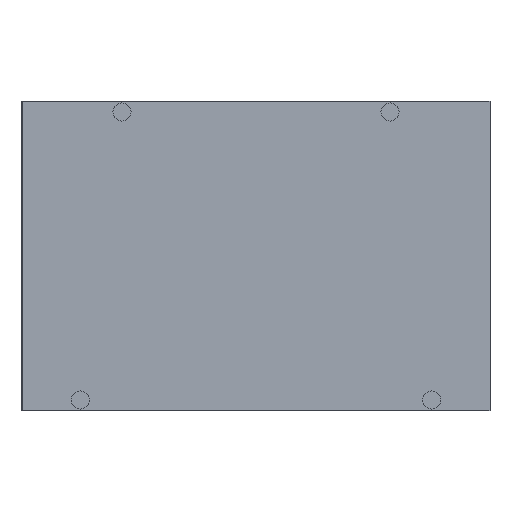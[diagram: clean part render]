
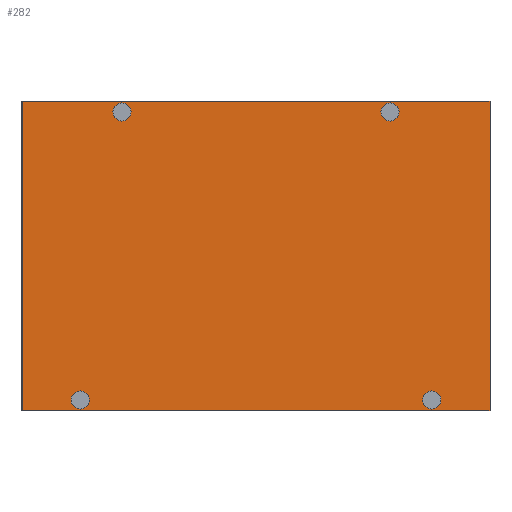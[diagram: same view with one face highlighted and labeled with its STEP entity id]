
A CAD part, front view. The second image highlights one B-rep face of the part: STEP entity #282.
In plain terms, the highlighted planar face has unit normal (0, -1, 0).
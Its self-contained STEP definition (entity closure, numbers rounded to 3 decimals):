
#20 = CIRCLE ( 'NONE', #932, 0.5 ) ;
#35 = CIRCLE ( 'NONE', #412, 0.5 ) ;
#40 = CARTESIAN_POINT ( 'NONE',  ( -9.675, -14.875, 0.6 ) ) ;
#44 = EDGE_CURVE ( 'NONE', #531, #658, #718, .T. ) ;
#56 = DIRECTION ( 'NONE',  ( -1., 0., 0. ) ) ;
#64 = DIRECTION ( 'NONE',  ( 0., 0., -1. ) ) ;
#110 = EDGE_CURVE ( 'NONE', #1180, #750, #361, .T. ) ;
#120 = ORIENTED_EDGE ( 'NONE', *, *, #575, .F. ) ;
#129 = ORIENTED_EDGE ( 'NONE', *, *, #203, .F. ) ;
#130 = VECTOR ( 'NONE', #1105, 1000. ) ;
#133 = DIRECTION ( 'NONE',  ( 0., -1., 0. ) ) ;
#136 = EDGE_CURVE ( 'NONE', #868, #887, #1132, .T. ) ;
#137 = DIRECTION ( 'NONE',  ( -1., 0., 0. ) ) ;
#141 = CARTESIAN_POINT ( 'NONE',  ( 10.175, -14.875, 0.6 ) ) ;
#149 = FACE_BOUND ( 'NONE', #899, .T. ) ;
#162 = CARTESIAN_POINT ( 'NONE',  ( -9.675, -14.875, 0.6 ) ) ;
#165 = CARTESIAN_POINT ( 'NONE',  ( -12.875, -14.875, 17.05 ) ) ;
#174 = EDGE_CURVE ( 'NONE', #750, #1180, #217, .T. ) ;
#176 = CARTESIAN_POINT ( 'NONE',  ( -12.875, -14.875, 0. ) ) ;
#177 = AXIS2_PLACEMENT_3D ( 'NONE', #986, #241, #598 ) ;
#190 = ORIENTED_EDGE ( 'NONE', *, *, #332, .F. ) ;
#202 = EDGE_CURVE ( 'NONE', #373, #662, #35, .T. ) ;
#203 = EDGE_CURVE ( 'NONE', #930, #211, #1146, .T. ) ;
#211 = VERTEX_POINT ( 'NONE', #141 ) ;
#217 = CIRCLE ( 'NONE', #177, 0.5 ) ;
#221 = ORIENTED_EDGE ( 'NONE', *, *, #174, .F. ) ;
#225 = AXIS2_PLACEMENT_3D ( 'NONE', #1169, #615, #56 ) ;
#230 = DIRECTION ( 'NONE',  ( 0., -1., 0. ) ) ;
#232 = CARTESIAN_POINT ( 'NONE',  ( -7.375, -14.875, 16.45 ) ) ;
#241 = DIRECTION ( 'NONE',  ( 0., -1., 0. ) ) ;
#244 = DIRECTION ( 'NONE',  ( -1., 0., 0. ) ) ;
#268 = AXIS2_PLACEMENT_3D ( 'NONE', #232, #133, #1164 ) ;
#276 = CARTESIAN_POINT ( 'NONE',  ( 7.375, -14.875, 16.45 ) ) ;
#282 = ADVANCED_FACE ( 'NONE', ( #1185, #580, #149, #883, #1063 ), #1175, .F. ) ;
#283 = ORIENTED_EDGE ( 'NONE', *, *, #110, .F. ) ;
#299 = DIRECTION ( 'NONE',  ( 0., 0., -1. ) ) ;
#319 = VECTOR ( 'NONE', #493, 1000. ) ;
#332 = EDGE_CURVE ( 'NONE', #510, #658, #956, .T. ) ;
#358 = CARTESIAN_POINT ( 'NONE',  ( 9.675, -14.875, 0.6 ) ) ;
#361 = CIRCLE ( 'NONE', #268, 0.5 ) ;
#367 = CARTESIAN_POINT ( 'NONE',  ( -12.875, -14.875, 17.05 ) ) ;
#373 = VERTEX_POINT ( 'NONE', #514 ) ;
#379 = CARTESIAN_POINT ( 'NONE',  ( 6.875, -14.875, 16.45 ) ) ;
#380 = DIRECTION ( 'NONE',  ( 0., -1., 0. ) ) ;
#386 = LINE ( 'NONE', #165, #130 ) ;
#387 = EDGE_LOOP ( 'NONE', ( #129, #640 ) ) ;
#406 = CARTESIAN_POINT ( 'NONE',  ( -12.875, -14.875, 0. ) ) ;
#412 = AXIS2_PLACEMENT_3D ( 'NONE', #40, #803, #244 ) ;
#417 = DIRECTION ( 'NONE',  ( 0., -1., 0. ) ) ;
#443 = CARTESIAN_POINT ( 'NONE',  ( 7.875, -14.875, 16.45 ) ) ;
#452 = AXIS2_PLACEMENT_3D ( 'NONE', #904, #230, #137 ) ;
#454 = DIRECTION ( 'NONE',  ( 0., -1., 0. ) ) ;
#488 = EDGE_CURVE ( 'NONE', #856, #510, #386, .T. ) ;
#493 = DIRECTION ( 'NONE',  ( 1., 0., 0. ) ) ;
#495 = CIRCLE ( 'NONE', #1130, 0.5 ) ;
#510 = VERTEX_POINT ( 'NONE', #846 ) ;
#514 = CARTESIAN_POINT ( 'NONE',  ( -10.175, -14.875, 0.6 ) ) ;
#515 = ORIENTED_EDGE ( 'NONE', *, *, #202, .F. ) ;
#531 = VERTEX_POINT ( 'NONE', #176 ) ;
#566 = CARTESIAN_POINT ( 'NONE',  ( 12.875, -14.875, 0. ) ) ;
#575 = EDGE_CURVE ( 'NONE', #887, #868, #696, .T. ) ;
#580 = FACE_BOUND ( 'NONE', #387, .T. ) ;
#598 = DIRECTION ( 'NONE',  ( -1., 0., 0. ) ) ;
#615 = DIRECTION ( 'NONE',  ( 0., 1., 0. ) ) ;
#624 = CARTESIAN_POINT ( 'NONE',  ( 12.875, -14.875, 17.05 ) ) ;
#631 = ORIENTED_EDGE ( 'NONE', *, *, #736, .T. ) ;
#640 = ORIENTED_EDGE ( 'NONE', *, *, #897, .F. ) ;
#658 = VERTEX_POINT ( 'NONE', #566 ) ;
#662 = VERTEX_POINT ( 'NONE', #847 ) ;
#668 = ORIENTED_EDGE ( 'NONE', *, *, #44, .T. ) ;
#696 = CIRCLE ( 'NONE', #1058, 0.5 ) ;
#712 = CARTESIAN_POINT ( 'NONE',  ( 9.675, -14.875, 0.6 ) ) ;
#718 = LINE ( 'NONE', #406, #319 ) ;
#728 = DIRECTION ( 'NONE',  ( 0., -1., 0. ) ) ;
#736 = EDGE_CURVE ( 'NONE', #856, #531, #798, .T. ) ;
#750 = VERTEX_POINT ( 'NONE', #766 ) ;
#758 = CARTESIAN_POINT ( 'NONE',  ( -6.875, -14.875, 16.45 ) ) ;
#760 = CARTESIAN_POINT ( 'NONE',  ( -12.875, -14.875, 17.05 ) ) ;
#766 = CARTESIAN_POINT ( 'NONE',  ( -7.875, -14.875, 16.45 ) ) ;
#793 = VECTOR ( 'NONE', #64, 1000. ) ;
#797 = ORIENTED_EDGE ( 'NONE', *, *, #136, .F. ) ;
#798 = LINE ( 'NONE', #760, #825 ) ;
#803 = DIRECTION ( 'NONE',  ( 0., -1., 0. ) ) ;
#814 = EDGE_LOOP ( 'NONE', ( #668, #190, #1088, #631 ) ) ;
#825 = VECTOR ( 'NONE', #299, 1000. ) ;
#837 = EDGE_CURVE ( 'NONE', #662, #373, #495, .T. ) ;
#846 = CARTESIAN_POINT ( 'NONE',  ( 12.875, -14.875, 17.05 ) ) ;
#847 = CARTESIAN_POINT ( 'NONE',  ( -9.175, -14.875, 0.6 ) ) ;
#850 = DIRECTION ( 'NONE',  ( -1., 0., 0. ) ) ;
#856 = VERTEX_POINT ( 'NONE', #367 ) ;
#868 = VERTEX_POINT ( 'NONE', #443 ) ;
#883 = FACE_BOUND ( 'NONE', #910, .T. ) ;
#887 = VERTEX_POINT ( 'NONE', #379 ) ;
#897 = EDGE_CURVE ( 'NONE', #211, #930, #20, .T. ) ;
#899 = EDGE_LOOP ( 'NONE', ( #120, #797 ) ) ;
#902 = DIRECTION ( 'NONE',  ( -1., 0., 0. ) ) ;
#904 = CARTESIAN_POINT ( 'NONE',  ( 7.375, -14.875, 16.45 ) ) ;
#910 = EDGE_LOOP ( 'NONE', ( #221, #283 ) ) ;
#912 = ORIENTED_EDGE ( 'NONE', *, *, #837, .F. ) ;
#930 = VERTEX_POINT ( 'NONE', #1203 ) ;
#932 = AXIS2_PLACEMENT_3D ( 'NONE', #358, #454, #1199 ) ;
#945 = EDGE_LOOP ( 'NONE', ( #515, #912 ) ) ;
#956 = LINE ( 'NONE', #624, #793 ) ;
#980 = AXIS2_PLACEMENT_3D ( 'NONE', #712, #417, #902 ) ;
#986 = CARTESIAN_POINT ( 'NONE',  ( -7.375, -14.875, 16.45 ) ) ;
#1008 = DIRECTION ( 'NONE',  ( -1., 0., 0. ) ) ;
#1058 = AXIS2_PLACEMENT_3D ( 'NONE', #276, #380, #850 ) ;
#1063 = FACE_OUTER_BOUND ( 'NONE', #814, .T. ) ;
#1088 = ORIENTED_EDGE ( 'NONE', *, *, #488, .F. ) ;
#1105 = DIRECTION ( 'NONE',  ( 1., 0., 0. ) ) ;
#1130 = AXIS2_PLACEMENT_3D ( 'NONE', #162, #728, #1008 ) ;
#1132 = CIRCLE ( 'NONE', #452, 0.5 ) ;
#1146 = CIRCLE ( 'NONE', #980, 0.5 ) ;
#1164 = DIRECTION ( 'NONE',  ( -1., 0., 0. ) ) ;
#1169 = CARTESIAN_POINT ( 'NONE',  ( -12.875, -14.875, 17.05 ) ) ;
#1175 = PLANE ( 'NONE',  #225 ) ;
#1180 = VERTEX_POINT ( 'NONE', #758 ) ;
#1185 = FACE_BOUND ( 'NONE', #945, .T. ) ;
#1199 = DIRECTION ( 'NONE',  ( -1., 0., 0. ) ) ;
#1203 = CARTESIAN_POINT ( 'NONE',  ( 9.175, -14.875, 0.6 ) ) ;
